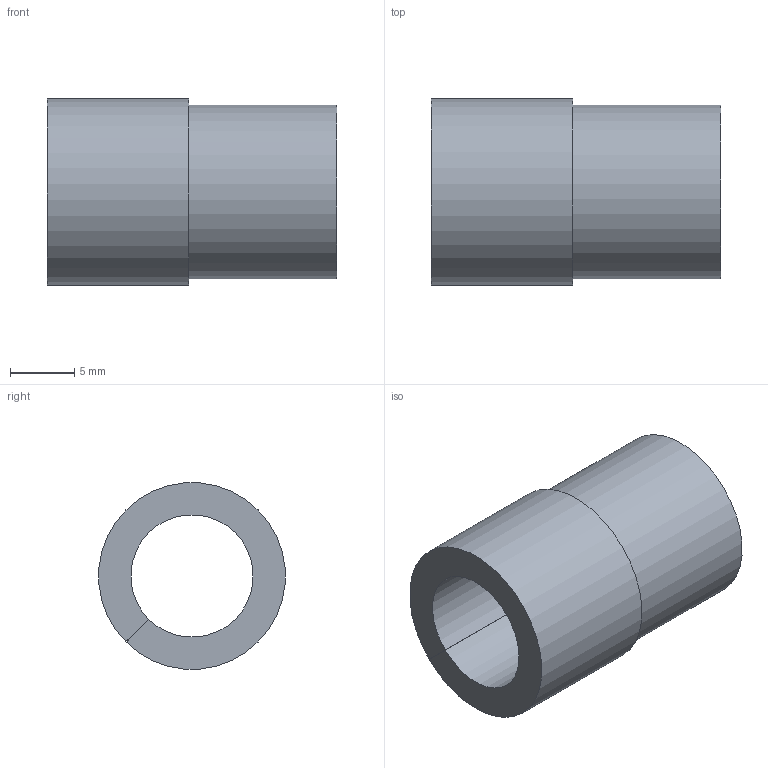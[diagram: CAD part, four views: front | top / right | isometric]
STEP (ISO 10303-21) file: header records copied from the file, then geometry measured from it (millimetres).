
FILE_DESCRIPTION(('Creo Elements/Direct Modeling STEP Export'),'2;1');
FILE_NAME('H23-0002-CL962-00_G11-09ARS.stp','2023-10-03T14:37:47',(''),(''),'Creo Elements/Direct Modeling STEP processor for AP214 (Solid Model)','Creo Elements/Direct Modeling 20.3B 05-Dec-2020 (C) Parametric Technology GmbH','');
FILE_SCHEMA(('AUTOMOTIVE_DESIGN { 1 0 10303 214 1 1 1 1 }'));
Length unit declared in the file: millimetre
Products named in the file (2): H23-0002-CL962-00_G11-09ARS
Assembly tree (1 placements, depth 2):
  H23-0002-CL962-00_G11-09ARS
    H23-0002-CL962-00_G11-09ARS
Bounding box: 22.5 x 14.45 x 14.45 mm (x, y, z)
Volume: 1865.5 mm3; surface area: 1942.9 mm2
Topology: 1 solids, 1 shells, 9 faces, 21 edges, 14 vertices
Faces by surface type: plane 5, cylinder 3, torus 1
Entity records: 339 total; most frequent: CARTESIAN_POINT 72, DIRECTION 52, ORIENTED_EDGE 42, EDGE_CURVE 21, AXIS2_PLACEMENT_3D 20, VERTEX_POINT 14, VECTOR 12, LINE 12
